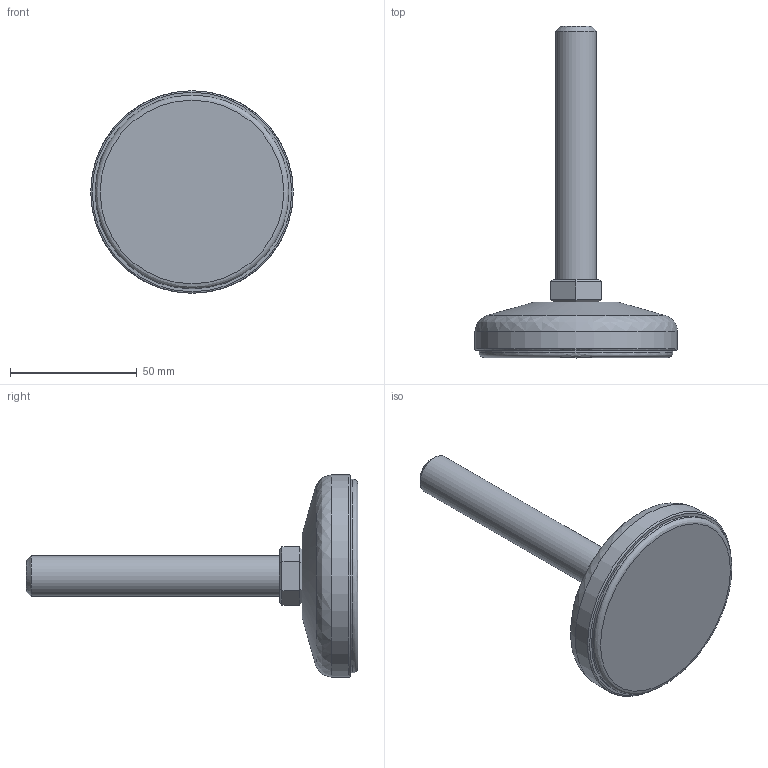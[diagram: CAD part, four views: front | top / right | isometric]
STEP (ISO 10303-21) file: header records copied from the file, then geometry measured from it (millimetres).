
FILE_DESCRIPTION(('STEP AP203'),'2;1');
FILE_NAME('11491.stp','2015-06-30T08:45:31',(''),(''),'2008.1.107','THINKDESIGN','');
FILE_SCHEMA(('CONFIG_CONTROL_DESIGN'));
Length unit declared in the file: millimetre
Bounding box: 80 x 131 x 80 mm (x, y, z)
Volume: 115865.8 mm3; surface area: 32215.4 mm2
Topology: 5 solids, 5 shells, 41 faces, 91 edges, 62 vertices
Faces by surface type: bspline 18, plane 17, cylinder 6
Full cylindrical faces by diameter (mm): 14 x1, 16 x2, 76.5 x2, 80 x1
Entity records: 2031 total; most frequent: CARTESIAN_POINT 948, ORIENTED_EDGE 180, DIRECTION 176, EDGE_CURVE 90, AXIS2_PLACEMENT_3D 62, VERTEX_POINT 60, VECTOR 52, LINE 52
